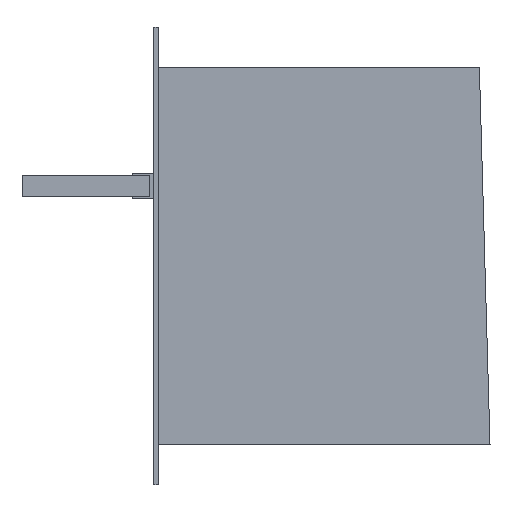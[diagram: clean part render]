
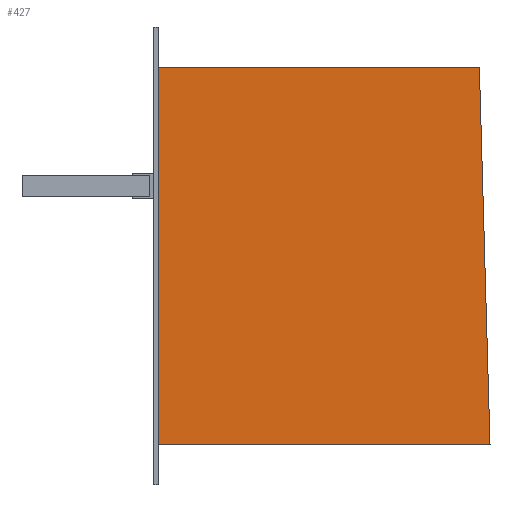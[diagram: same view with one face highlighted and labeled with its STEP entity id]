
A CAD part, left-side view. The second image highlights one B-rep face of the part: STEP entity #427.
In plain terms, the highlighted planar face has unit normal (-1, 0, 0).
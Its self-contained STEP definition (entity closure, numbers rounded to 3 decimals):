
#13 = VERTEX_POINT ( 'NONE', #1399 ) ;
#47 = VERTEX_POINT ( 'NONE', #492 ) ;
#148 = ORIENTED_EDGE ( 'NONE', *, *, #1623, .T. ) ;
#156 = EDGE_CURVE ( 'NONE', #1603, #1512, #531, .T. ) ;
#177 = DIRECTION ( 'NONE',  ( 0., 0., -1. ) ) ;
#188 = LINE ( 'NONE', #1258, #1870 ) ;
#268 = VECTOR ( 'NONE', #552, 1000. ) ;
#320 = PLANE ( 'NONE',  #1620 ) ;
#364 = DIRECTION ( 'NONE',  ( 0., 1., 0. ) ) ;
#387 = DIRECTION ( 'NONE',  ( 0., 0.028, 1. ) ) ;
#427 = ADVANCED_FACE ( 'NONE', ( #1841 ), #320, .F. ) ;
#463 = ORIENTED_EDGE ( 'NONE', *, *, #746, .T. ) ;
#492 = CARTESIAN_POINT ( 'NONE',  ( -291., -156., -88.5 ) ) ;
#527 = CARTESIAN_POINT ( 'NONE',  ( -291., -151., 88.5 ) ) ;
#531 = LINE ( 'NONE', #1717, #546 ) ;
#539 = LINE ( 'NONE', #1742, #268 ) ;
#546 = VECTOR ( 'NONE', #364, 1000. ) ;
#552 = DIRECTION ( 'NONE',  ( 0., -1., 0. ) ) ;
#577 = EDGE_LOOP ( 'NONE', ( #148, #1334, #1119, #463 ) ) ;
#646 = CARTESIAN_POINT ( 'NONE',  ( -291., 2., 107.5 ) ) ;
#746 = EDGE_CURVE ( 'NONE', #1512, #13, #188, .T. ) ;
#816 = DIRECTION ( 'NONE',  ( 0., 0., -1. ) ) ;
#1119 = ORIENTED_EDGE ( 'NONE', *, *, #156, .T. ) ;
#1258 = CARTESIAN_POINT ( 'NONE',  ( -291., 0., 88.5 ) ) ;
#1272 = LINE ( 'NONE', #527, #1945 ) ;
#1334 = ORIENTED_EDGE ( 'NONE', *, *, #1914, .T. ) ;
#1399 = CARTESIAN_POINT ( 'NONE',  ( -291., 0., -88.5 ) ) ;
#1434 = CARTESIAN_POINT ( 'NONE',  ( -291., 0., 88.5 ) ) ;
#1467 = CARTESIAN_POINT ( 'NONE',  ( -291., -151., 88.5 ) ) ;
#1512 = VERTEX_POINT ( 'NONE', #1434 ) ;
#1603 = VERTEX_POINT ( 'NONE', #1467 ) ;
#1620 = AXIS2_PLACEMENT_3D ( 'NONE', #646, #1702, #177 ) ;
#1623 = EDGE_CURVE ( 'NONE', #13, #47, #539, .T. ) ;
#1702 = DIRECTION ( 'NONE',  ( 1., 0., 0. ) ) ;
#1717 = CARTESIAN_POINT ( 'NONE',  ( -291., 0., 88.5 ) ) ;
#1742 = CARTESIAN_POINT ( 'NONE',  ( -291., 0., -88.5 ) ) ;
#1841 = FACE_OUTER_BOUND ( 'NONE', #577, .T. ) ;
#1870 = VECTOR ( 'NONE', #816, 1000. ) ;
#1914 = EDGE_CURVE ( 'NONE', #47, #1603, #1272, .T. ) ;
#1945 = VECTOR ( 'NONE', #387, 1000. ) ;
